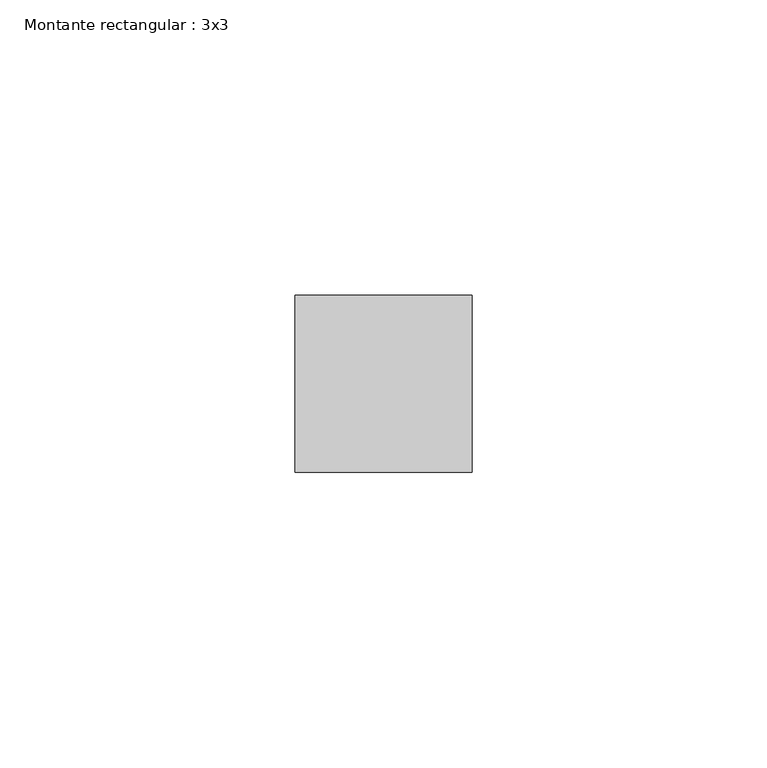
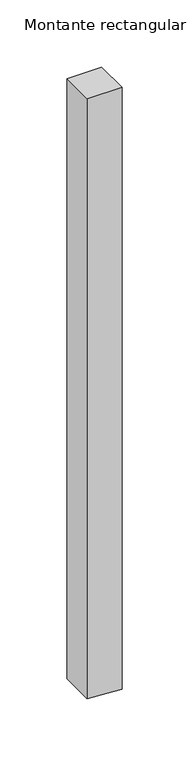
"""IFC4 building model written with IfcOpenShell, lengths in millimetres: member geometry, Montante rectangular : 3x3."""

from ifc_helpers import new_model, si_unit, frame, origin, place, context, project, spatial, polyline, outline, extrude, source, transform, mapped, element, save


def montante_rectangular_3x3_588625e3(model_context):
    return source(origin(), model_context, "Body", "SweptSolid", [
        extrude(outline(polyline([(0.0, 15.0), (0.0, -15.0), (-546.1939413, -15.0), (-547.4498165, 2.1863855), (-548.3861565, 15.0), (0.0, 15.0)])), frame((0.0, -15.0, 0.0), z_axis=(0.0, 1.0, 0.0), x_axis=(0.0, 0.0, 1.0)), (0.0, 0.0, 1.0), 30.0),
    ])


if __name__ == "__main__":
    model = new_model("IFC4")
    model_context = context("Model", 3, world=origin())
    ifc_project = project(units=[si_unit("LENGTHUNIT", "METRE", prefix="MILLI")], contexts=[model_context])
    site = spatial("IfcSite", under=ifc_project)
    building = spatial("IfcBuilding", under=site)
    placement = place(None, origin())
    montante_rectangular_3x3_shape = montante_rectangular_3x3_588625e3(model_context)
    element("IfcMember", 1, ObjectType="Montante rectangular : 3x3", at=placement, inside=building, context=model_context, shape_type="MappedRepresentation", body=[
        mapped(montante_rectangular_3x3_shape, transform((0.0, 0.0, 0.0), x_axis=(1.0, 0.0, 0.0), y_axis=(0.0, 1.0, 0.0), z_axis=(0.0, 0.0, 1.0))),
    ])
    save(model, "model.ifc")
